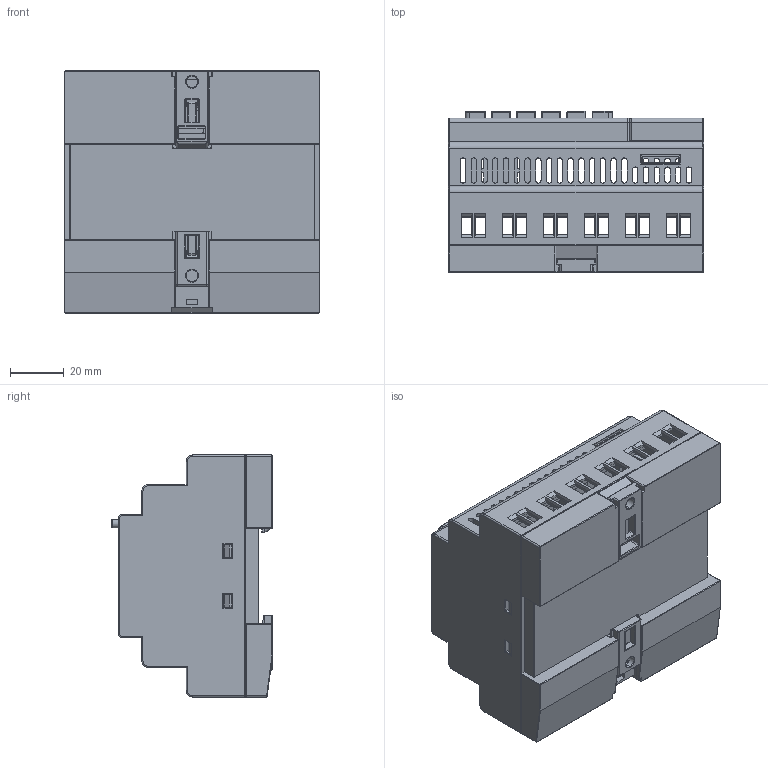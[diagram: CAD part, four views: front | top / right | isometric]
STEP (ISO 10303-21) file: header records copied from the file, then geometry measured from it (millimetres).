
FILE_DESCRIPTION (( 'STEP AP203' ), '1' );
FILE_NAME ('PR-18N Series CPU 3D.STEP', '2024-06-19T09:42:25', ( '' ), ( '' ), 'SwSTEP 2.0', 'SolidWorks 2020', '' );
FILE_SCHEMA (( 'CONFIG_CONTROL_DESIGN' ));
Length unit declared in the file: millimetre
Products named in the file (8): PR-18N-新系列 下盖（23-242-1）242-1￡_242-1_ê_; PR-18N 新系列 上盖（23-242-2）242-2￡_242-2_ê_; PR-26 炵蹈孺桯諳裔_1_迆___1_“2__; PR-18N Series CPU 3D; SR-12 系列 新按键-PR-18（23-243-6）-长方形6￡_-3¤·_D_6_ê_-3_è_¤_D_; PR 炵蹈芵隴え__‾________; PR 炵蹈傻脣种足2__迆“_2__“2; PR 系列长插销¤2__ú_è2__¨2
Assembly tree (7 placements, depth 2):
  PR-18N Series CPU 3D
    PR-18N-新系列 下盖（23-242-1）242-1￡_242-1_ê_
    PR-18N 新系列 上盖（23-242-2）242-2￡_242-2_ê_
    PR-26 炵蹈孺桯諳裔_1_迆___1_“2__
    PR 炵蹈芵隴え__‾________
    PR 炵蹈傻脣种足2__迆“_2__“2
    PR 系列长插销¤2__ú_è2__¨2
    SR-12 系列 新按键-PR-18（23-243-6）-长方形6￡_-3¤·_D_6_ê_-3_è_¤_D_
Bounding box: 95 x 59.75 x 90 mm (x, y, z)
Volume: 80704.9 mm3; surface area: 91135.3 mm2
Topology: 7 solids, 7 shells, 1746 faces, 4566 edges, 2780 vertices
Faces by surface type: plane 969, cylinder 580, torus 82, sphere 81, cone 24, bspline 10
Entity records: 53650 total; most frequent: CARTESIAN_POINT 9673, ORIENTED_EDGE 8988, DIRECTION 8947, EDGE_CURVE 4494, VECTOR 3215, LINE 3215, AXIS2_PLACEMENT_3D 2866, VERTEX_POINT 2780
